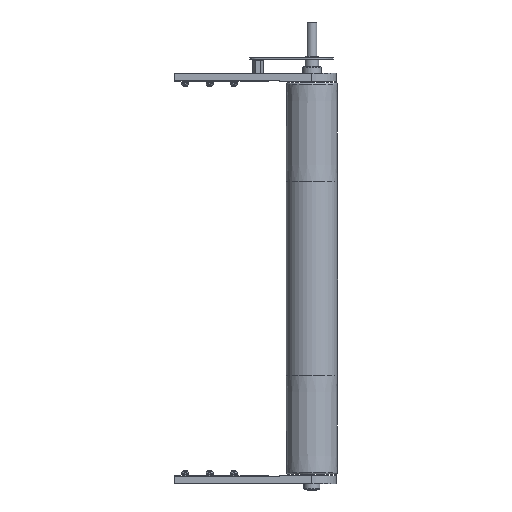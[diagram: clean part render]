
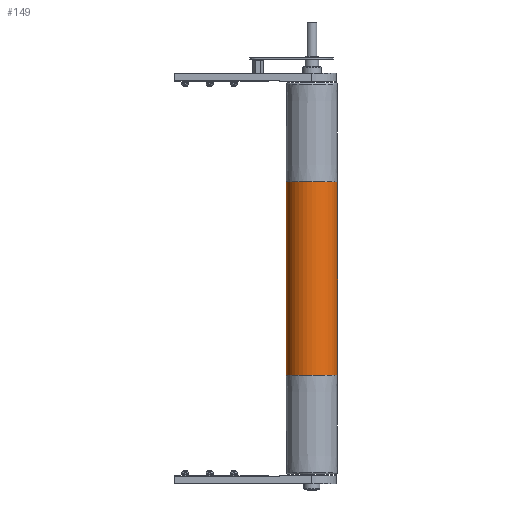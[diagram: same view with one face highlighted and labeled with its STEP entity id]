
A CAD part, front view. The second image highlights one B-rep face of the part: STEP entity #149.
In plain terms, the highlighted cylindrical face has radius 47.5 mm (diameter 95 mm), a partial arc.
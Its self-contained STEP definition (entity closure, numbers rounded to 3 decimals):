
#149 = ADVANCED_FACE ( 'NONE', ( #16297 ), #15857, .T. ) ;
#348 = LINE ( 'NONE', #3428, #444 ) ;
#444 = VECTOR ( 'NONE', #3273, 1000. ) ;
#688 = CIRCLE ( 'NONE', #8654, 47.5 ) ;
#1483 = EDGE_CURVE ( 'NONE', #15131, #14905, #12960, .T. ) ;
#1671 = EDGE_CURVE ( 'NONE', #15091, #14891, #688, .T. ) ;
#1733 = EDGE_CURVE ( 'NONE', #14905, #14891, #348, .T. ) ;
#2259 = EDGE_CURVE ( 'NONE', #15131, #15091, #19269, .T. ) ;
#2645 = ORIENTED_EDGE ( 'NONE', *, *, #2259, .T. ) ;
#2741 = ORIENTED_EDGE ( 'NONE', *, *, #1671, .T. ) ;
#2776 = ORIENTED_EDGE ( 'NONE', *, *, #1483, .F. ) ;
#3031 = ORIENTED_EDGE ( 'NONE', *, *, #1733, .F. ) ;
#3273 = DIRECTION ( 'NONE',  ( 0., 0., -1. ) ) ;
#3428 = CARTESIAN_POINT ( 'NONE',  ( 47.5, 0., 360. ) ) ;
#4145 = EDGE_LOOP ( 'NONE', ( #3031, #2776, #2645, #2741 ) ) ;
#5349 = AXIS2_PLACEMENT_3D ( 'NONE', #17290, #17127, #17311 ) ;
#8378 = AXIS2_PLACEMENT_3D ( 'NONE', #18427, #18459, #18269 ) ;
#8654 = AXIS2_PLACEMENT_3D ( 'NONE', #13983, #13950, #13975 ) ;
#10542 = CARTESIAN_POINT ( 'NONE',  ( -47.5, 0., 180. ) ) ;
#10596 = CARTESIAN_POINT ( 'NONE',  ( -47.5, 0., -180. ) ) ;
#10874 = CARTESIAN_POINT ( 'NONE',  ( 47.5, 0., 180. ) ) ;
#11485 = CARTESIAN_POINT ( 'NONE',  ( 47.5, 0., -180. ) ) ;
#12011 = DIRECTION ( 'NONE',  ( 0., 0., -1. ) ) ;
#12014 = CARTESIAN_POINT ( 'NONE',  ( -47.5, 0., 360. ) ) ;
#12960 = CIRCLE ( 'NONE', #8378, 47.5 ) ;
#13950 = DIRECTION ( 'NONE',  ( 0., 0., 1. ) ) ;
#13975 = DIRECTION ( 'NONE',  ( 1., 0., 0. ) ) ;
#13983 = CARTESIAN_POINT ( 'NONE',  ( 0., 0., -180. ) ) ;
#14891 = VERTEX_POINT ( 'NONE', #11485 ) ;
#14905 = VERTEX_POINT ( 'NONE', #10874 ) ;
#15091 = VERTEX_POINT ( 'NONE', #10596 ) ;
#15131 = VERTEX_POINT ( 'NONE', #10542 ) ;
#15857 = CYLINDRICAL_SURFACE ( 'NONE', #5349, 47.5 ) ;
#16297 = FACE_OUTER_BOUND ( 'NONE', #4145, .T. ) ;
#17127 = DIRECTION ( 'NONE',  ( 0., 0., -1. ) ) ;
#17290 = CARTESIAN_POINT ( 'NONE',  ( 0., 0., 360. ) ) ;
#17311 = DIRECTION ( 'NONE',  ( -1., 0., 0. ) ) ;
#18269 = DIRECTION ( 'NONE',  ( 1., 0., 0. ) ) ;
#18427 = CARTESIAN_POINT ( 'NONE',  ( 0., 0., 180. ) ) ;
#18459 = DIRECTION ( 'NONE',  ( 0., 0., 1. ) ) ;
#19269 = LINE ( 'NONE', #12014, #19301 ) ;
#19301 = VECTOR ( 'NONE', #12011, 1000. ) ;
